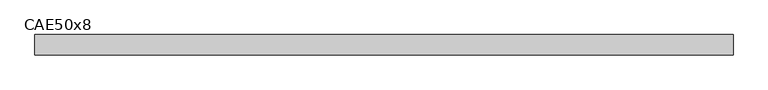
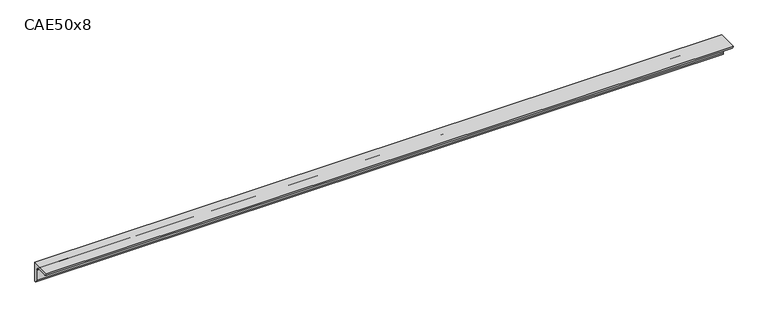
"""IFC4 building model written with IfcOpenShell, lengths in millimetres: beam geometry, L-Cornières : CAE50x8."""

from ifc_helpers import new_model, si_unit, point, frame, frame_2d, origin, place, context, project, spatial, polyline, circle_curve, trimmed, segment, composite_curve, outline, extrude, source, transform, mapped, element, save


def cae50x8_d1cf2c3b(model_context):
    return source(origin(), model_context, "Body", "SweptSolid", [
        extrude(outline(composite_curve([segment(polyline([(15.2, 15.2), (15.2, -34.8)]), True, "CONTINUOUS"), segment(trimmed(circle_curve(frame_2d((15.2, -26.8)), 8.0), [point((15.2, -34.8))], [point((7.2, -26.8))], False, "CARTESIAN"), True, "CONTINUOUS"), segment(polyline([(7.2, -26.8), (7.2, -0.8)]), True, "CONTINUOUS"), segment(trimmed(circle_curve(frame_2d((-0.8, -0.8)), 8.0), [point((7.2, -0.8))], [point((-0.8, 7.2))], True, "CARTESIAN"), True, "CONTINUOUS"), segment(polyline([(-0.8, 7.2), (-26.8, 7.2)]), True, "CONTINUOUS"), segment(trimmed(circle_curve(frame_2d((-26.8, 15.2)), 8.0), [point((-26.8, 7.2))], [point((-34.8, 15.2))], False, "CARTESIAN"), True, "CONTINUOUS"), segment(polyline([(-34.8, 15.2), (15.2, 15.2)]), True, "CONTINUOUS")], self_intersect=False)), frame((-862.0, 0.0, 0.0), z_axis=(1.0, 0.0, 0.0), x_axis=(0.0, 1.0, 0.0)), (0.0, 0.0, 1.0), 1715.0),
    ])


if __name__ == "__main__":
    model = new_model("IFC4")
    model_context = context("Model", 3, world=origin())
    ifc_project = project(units=[si_unit("LENGTHUNIT", "METRE", prefix="MILLI")], contexts=[model_context])
    site = spatial("IfcSite", under=ifc_project)
    building = spatial("IfcBuilding", under=site)
    placement = place(None, origin())
    cae50x8_shape = cae50x8_d1cf2c3b(model_context)
    element("IfcBeam", 1, ObjectType="L-Cornières : CAE50x8", at=placement, inside=building, context=model_context, shape_type="MappedRepresentation", body=[
        mapped(cae50x8_shape, transform((0.0, 0.0, 0.0), x_axis=(1.0, 0.0, 0.0), y_axis=(0.0, 1.0, 0.0), z_axis=(0.0, 0.0, 1.0))),
    ])
    save(model, "model.ifc")
